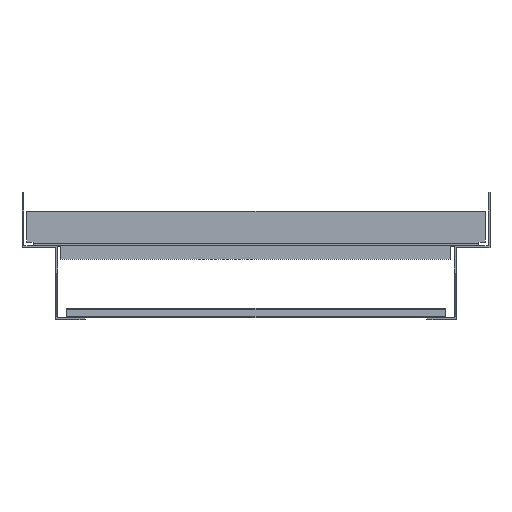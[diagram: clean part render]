
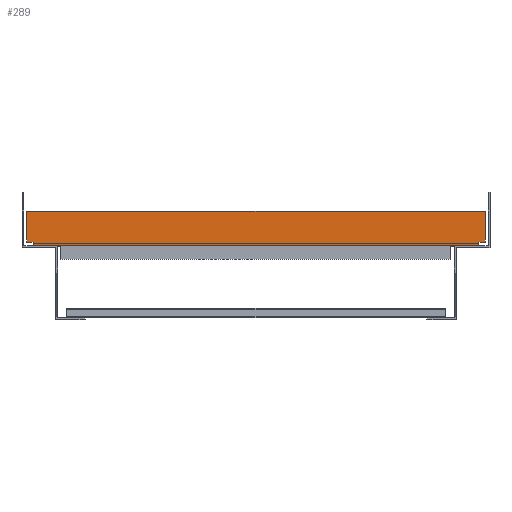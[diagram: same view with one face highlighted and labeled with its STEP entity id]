
A CAD part, front view. The second image highlights one B-rep face of the part: STEP entity #289.
In plain terms, the highlighted planar face has unit normal (0, -1, 0).
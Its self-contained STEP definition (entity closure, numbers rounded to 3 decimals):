
#289 = ADVANCED_FACE( '', ( #598 ), #599, .F. );
#598 = FACE_OUTER_BOUND( '', #1000, .T. );
#599 = PLANE( '', #1001 );
#1000 = EDGE_LOOP( '', ( #1448, #1449, #1450, #1451, #1452, #1453, #1454, #1455 ) );
#1001 = AXIS2_PLACEMENT_3D( '', #1456, #1457, #1458 );
#1448 = ORIENTED_EDGE( '', *, *, #2534, .F. );
#1449 = ORIENTED_EDGE( '', *, *, #2535, .F. );
#1450 = ORIENTED_EDGE( '', *, *, #2536, .F. );
#1451 = ORIENTED_EDGE( '', *, *, #2537, .T. );
#1452 = ORIENTED_EDGE( '', *, *, #2521, .T. );
#1453 = ORIENTED_EDGE( '', *, *, #2538, .T. );
#1454 = ORIENTED_EDGE( '', *, *, #2506, .T. );
#1455 = ORIENTED_EDGE( '', *, *, #2539, .F. );
#1456 = CARTESIAN_POINT( '', ( 353., -15., -10.5 ) );
#1457 = DIRECTION( '', ( 0., 1., 0. ) );
#1458 = DIRECTION( '', ( 0., 0., 1. ) );
#2506 = EDGE_CURVE( '', #2968, #2970, #2972, .T. );
#2521 = EDGE_CURVE( '', #2998, #2996, #2999, .T. );
#2534 = EDGE_CURVE( '', #3020, #3021, #3022, .T. );
#2535 = EDGE_CURVE( '', #3023, #3020, #3024, .T. );
#2536 = EDGE_CURVE( '', #3025, #3023, #3026, .T. );
#2537 = EDGE_CURVE( '', #3025, #2998, #3027, .T. );
#2538 = EDGE_CURVE( '', #2996, #2968, #3028, .T. );
#2539 = EDGE_CURVE( '', #3021, #2970, #3029, .T. );
#2968 = VERTEX_POINT( '', #3650 );
#2970 = VERTEX_POINT( '', #3653 );
#2972 = LINE( '', #3656, #3657 );
#2996 = VERTEX_POINT( '', #3691 );
#2998 = VERTEX_POINT( '', #3694 );
#2999 = LINE( '', #3695, #3696 );
#3020 = VERTEX_POINT( '', #3726 );
#3021 = VERTEX_POINT( '', #3727 );
#3022 = LINE( '', #3728, #3729 );
#3023 = VERTEX_POINT( '', #3730 );
#3024 = LINE( '', #3731, #3732 );
#3025 = VERTEX_POINT( '', #3733 );
#3026 = LINE( '', #3734, #3735 );
#3027 = LINE( '', #3736, #3737 );
#3028 = LINE( '', #3738, #3739 );
#3029 = LINE( '', #3740, #3741 );
#3650 = CARTESIAN_POINT( '', ( 0., -15., -13.23 ) );
#3653 = CARTESIAN_POINT( '', ( 0., -15., -37. ) );
#3656 = CARTESIAN_POINT( '', ( 0., -15., -10.5 ) );
#3657 = VECTOR( '', #4578, 1000. );
#3691 = CARTESIAN_POINT( '', ( 5., -15., -13.23 ) );
#3694 = CARTESIAN_POINT( '', ( 5., -15., -10.5 ) );
#3695 = CARTESIAN_POINT( '', ( 5., -15., 0. ) );
#3696 = VECTOR( '', #4590, 1000. );
#3726 = CARTESIAN_POINT( '', ( 353., -15., -13.23 ) );
#3727 = CARTESIAN_POINT( '', ( 353., -15., -37. ) );
#3728 = CARTESIAN_POINT( '', ( 353., -15., -10.5 ) );
#3729 = VECTOR( '', #4600, 1000. );
#3730 = CARTESIAN_POINT( '', ( 348., -15., -13.23 ) );
#3731 = CARTESIAN_POINT( '', ( 348., -15., -13.23 ) );
#3732 = VECTOR( '', #4601, 1000. );
#3733 = CARTESIAN_POINT( '', ( 348., -15., -10.5 ) );
#3734 = CARTESIAN_POINT( '', ( 348., -15., 0. ) );
#3735 = VECTOR( '', #4602, 1000. );
#3736 = CARTESIAN_POINT( '', ( 353., -15., -10.5 ) );
#3737 = VECTOR( '', #4603, 1000. );
#3738 = CARTESIAN_POINT( '', ( 5., -15., -13.23 ) );
#3739 = VECTOR( '', #4604, 1000. );
#3740 = CARTESIAN_POINT( '', ( 353., -15., -37. ) );
#3741 = VECTOR( '', #4605, 1000. );
#4578 = DIRECTION( '', ( 0., 0., -1. ) );
#4590 = DIRECTION( '', ( 0., 0., -1. ) );
#4600 = DIRECTION( '', ( 0., 0., -1. ) );
#4601 = DIRECTION( '', ( 1., 0., 0. ) );
#4602 = DIRECTION( '', ( 0., 0., -1. ) );
#4603 = DIRECTION( '', ( -1., 0., 0. ) );
#4604 = DIRECTION( '', ( -1., 0., 0. ) );
#4605 = DIRECTION( '', ( -1., 0., 0. ) );
